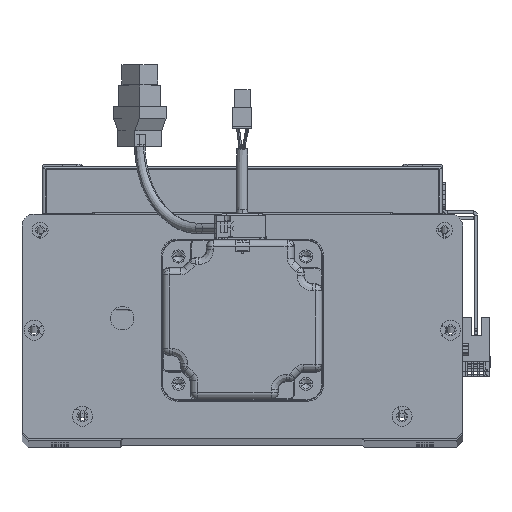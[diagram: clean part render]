
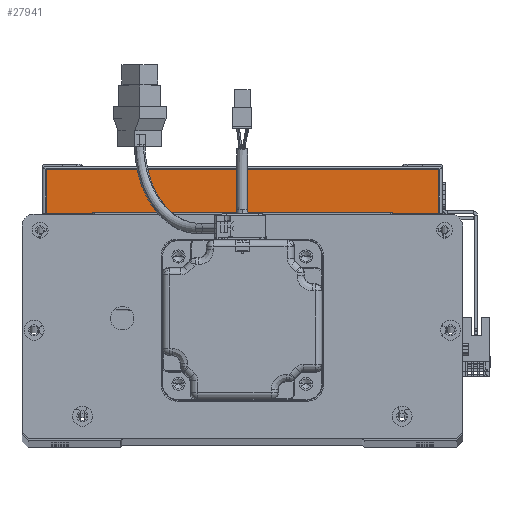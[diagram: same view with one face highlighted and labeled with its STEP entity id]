
A CAD part, top view. The second image highlights one B-rep face of the part: STEP entity #27941.
In plain terms, the highlighted planar face has unit normal (0, 0, 1) as drawn and (1, 0, 0) by its records, which use the part's own axes.
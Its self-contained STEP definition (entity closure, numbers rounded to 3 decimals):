
#290 = LINE ( 'NONE', #60044, #44709 ) ;
#979 = CARTESIAN_POINT ( 'NONE',  ( 150., 0., -98. ) ) ;
#1935 = VECTOR ( 'NONE', #23761, 1000. ) ;
#2304 = EDGE_CURVE ( 'NONE', #14657, #31754, #58311, .T. ) ;
#5518 = EDGE_CURVE ( 'NONE', #47545, #56802, #44394, .T. ) ;
#6830 = VECTOR ( 'NONE', #10593, 1000. ) ;
#10345 = CARTESIAN_POINT ( 'NONE',  ( 150., 23.5, 98. ) ) ;
#10593 = DIRECTION ( 'NONE',  ( 0., -1., 0. ) ) ;
#10715 = CARTESIAN_POINT ( 'NONE',  ( 150., 0., 98. ) ) ;
#10807 = DIRECTION ( 'NONE',  ( -1., 0., 0. ) ) ;
#12582 = DIRECTION ( 'NONE',  ( 0., 0., 1. ) ) ;
#13649 = EDGE_LOOP ( 'NONE', ( #46988, #38531, #59174, #55147 ) ) ;
#14657 = VERTEX_POINT ( 'NONE', #979 ) ;
#21297 = PLANE ( 'NONE',  #50395 ) ;
#23761 = DIRECTION ( 'NONE',  ( 0., 1., 0. ) ) ;
#27014 = DIRECTION ( 'NONE',  ( 0., 0., 1. ) ) ;
#27941 = ADVANCED_FACE ( 'NONE', ( #56400 ), #21297, .F. ) ;
#28780 = CARTESIAN_POINT ( 'NONE',  ( 150., 22.5, -98. ) ) ;
#31754 = VERTEX_POINT ( 'NONE', #28780 ) ;
#35448 = EDGE_CURVE ( 'NONE', #31754, #47545, #57799, .T. ) ;
#38531 = ORIENTED_EDGE ( 'NONE', *, *, #35448, .T. ) ;
#44394 = LINE ( 'NONE', #10345, #6830 ) ;
#44709 = VECTOR ( 'NONE', #60271, 1000. ) ;
#45837 = VECTOR ( 'NONE', #12582, 1000. ) ;
#46988 = ORIENTED_EDGE ( 'NONE', *, *, #2304, .T. ) ;
#47545 = VERTEX_POINT ( 'NONE', #59658 ) ;
#50395 = AXIS2_PLACEMENT_3D ( 'NONE', #64580, #10807, #27014 ) ;
#51206 = CARTESIAN_POINT ( 'NONE',  ( 150., 23.5, -98. ) ) ;
#53335 = EDGE_CURVE ( 'NONE', #56802, #14657, #290, .T. ) ;
#55147 = ORIENTED_EDGE ( 'NONE', *, *, #53335, .T. ) ;
#55852 = CARTESIAN_POINT ( 'NONE',  ( 150., 22.5, 98. ) ) ;
#56400 = FACE_OUTER_BOUND ( 'NONE', #13649, .T. ) ;
#56802 = VERTEX_POINT ( 'NONE', #10715 ) ;
#57799 = LINE ( 'NONE', #55852, #45837 ) ;
#58311 = LINE ( 'NONE', #51206, #1935 ) ;
#59174 = ORIENTED_EDGE ( 'NONE', *, *, #5518, .T. ) ;
#59658 = CARTESIAN_POINT ( 'NONE',  ( 150., 22.5, 98. ) ) ;
#60044 = CARTESIAN_POINT ( 'NONE',  ( 150., 0., -100. ) ) ;
#60271 = DIRECTION ( 'NONE',  ( 0., 0., -1. ) ) ;
#64580 = CARTESIAN_POINT ( 'NONE',  ( 150., 23.5, -100. ) ) ;
